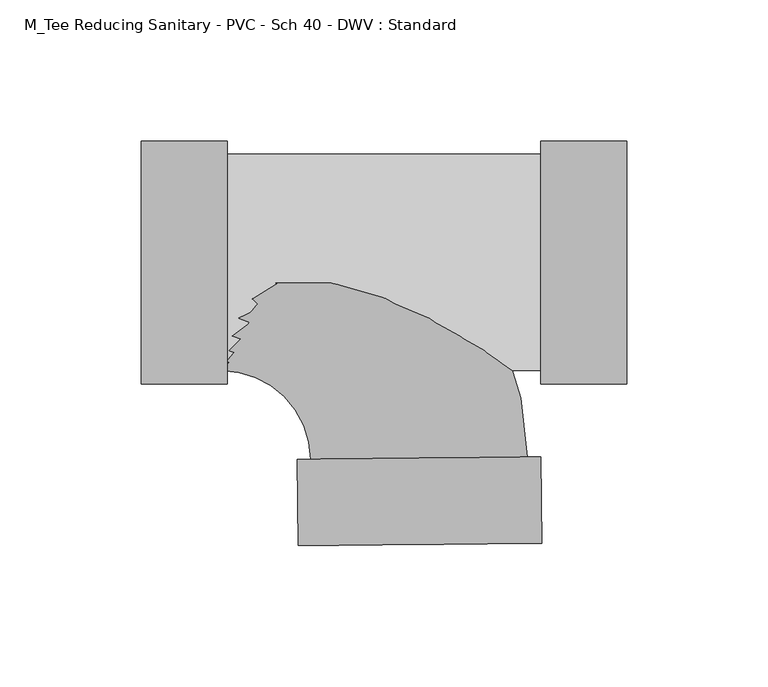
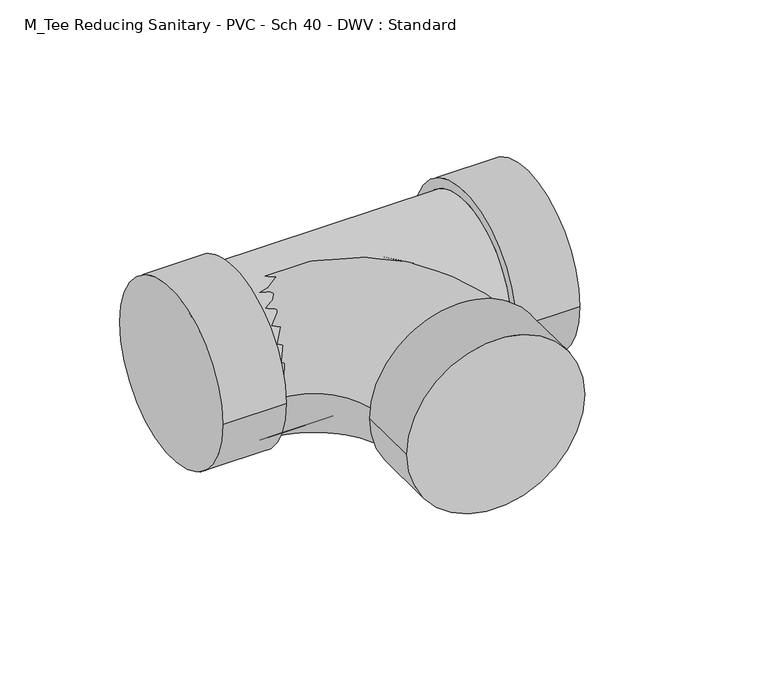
"""IFC4 building model written with IfcOpenShell, lengths in millimetres: pipe fitting geometry, M_Tee Reducing Sanitary - PVC - Sch 40 - DWV : Standard."""

from ifc_helpers import new_model, si_unit, point, frame, origin, place, context, project, spatial, circle_curve, ellipse_curve, trimmed, source, transform, mapped, element, save
from ifc_brep_helpers import plane_surface, cylinder_surface, revolved_surface, advanced_brep


def m_tee_reducing_sanitary_pvc_sch_40_dwv_standard_b574f8c1(model_context):
    return source(origin(), model_context, "Body", "AdvancedBrep", [
        advanced_brep(
        [(43.778897, -43.0871094, 0.0), (43.778897, 43.0871094, 0.0), (43.778897, -38.3640625, 0.0), (43.778897, 38.3640625, 0.0), (74.3492095, -43.0871094, 0.0), (74.3492095, 43.0871094, 0.0), (-67.2428062, 38.3640625, 0.0), (-67.2428062, -38.3640625, 0.0), (-97.8131188, -43.0871094, 0.0), (-97.8131187, 43.0871094, 0.0), (-67.2428063, -43.0871094, 0.0), (-67.2428062, 43.0871094, 0.0)],
        [
            (0, 1, circle_curve(frame((43.778897, 0.0, 0.0), z_axis=(-1.0, 0.0, 0.0), x_axis=(0.0, 1.0, 0.0)), 43.0871094)),
            (1, 0, circle_curve(frame((43.778897, 0.0, 0.0), z_axis=(-1.0, 0.0, 0.0), x_axis=(0.0, 1.0, 0.0)), 43.0871094)),
            (2, 3, circle_curve(frame((43.778897, 0.0, 0.0), z_axis=(1.0, 0.0, 0.0), x_axis=(0.0, 0.0, -1.0)), 38.3640625)),
            (3, 2, circle_curve(frame((43.778897, 0.0, 0.0), z_axis=(1.0, 0.0, 0.0), x_axis=(0.0, 0.0, 1.0)), 38.3640625)),
            (4, 5, circle_curve(frame((74.3492095, 0.0, 0.0), z_axis=(1.0, 0.0, 0.0), x_axis=(0.0, 1.0, 0.0)), 43.0871094)),
            (5, 4, circle_curve(frame((74.3492095, 0.0, 0.0), z_axis=(1.0, 0.0, 0.0), x_axis=(0.0, 1.0, 0.0)), 43.0871094)),
            (0, 4),
            (5, 1),
            (6, 3),
            (2, 7),
            (7, 6, circle_curve(frame((-67.2428063, 0.0, 0.0), z_axis=(1.0, 0.0, 0.0), x_axis=(0.0, 0.0, -1.0)), 38.3640625)),
            (6, 7, circle_curve(frame((-67.2428062, 0.0, 0.0), z_axis=(1.0, 0.0, 0.0), x_axis=(0.0, 0.0, 1.0)), 38.3640625)),
            (8, 9, circle_curve(frame((-97.8131187, 0.0, 0.0), z_axis=(-1.0, 0.0, 0.0), x_axis=(0.0, 1.0, 0.0)), 43.0871094)),
            (9, 8, circle_curve(frame((-97.8131187, 0.0, 0.0), z_axis=(-1.0, 0.0, 0.0), x_axis=(0.0, 1.0, 0.0)), 43.0871094)),
            (10, 11, circle_curve(frame((-67.2428062, 0.0, 0.0), z_axis=(1.0, 0.0, 0.0), x_axis=(0.0, 1.0, 0.0)), 43.0871094)),
            (11, 10, circle_curve(frame((-67.2428062, 0.0, 0.0), z_axis=(1.0, 0.0, 0.0), x_axis=(0.0, 1.0, 0.0)), 43.0871094)),
            (8, 10),
            (11, 9),
        ],
        [
            plane_surface(frame((43.778897, 0.0, 0.0), z_axis=(-1.0, 0.0, 0.0), x_axis=(0.0, 0.0, 1.0))),
            plane_surface(frame((74.3492095, 0.0, 0.0), z_axis=(1.0, 0.0, 0.0), x_axis=(0.0, 0.0, 1.0))),
            cylinder_surface(frame((43.778897, 0.0, 0.0), z_axis=(-1.0, 0.0, 0.0), x_axis=(0.0, 1.0, 0.0)), 43.0871094),
            cylinder_surface(frame((-67.2428062, 0.0, 0.0), z_axis=(1.0, 0.0, 0.0), x_axis=(0.0, 0.0, -1.0)), 38.3640625),
            cylinder_surface(frame((-67.2428062, 0.0, 0.0), z_axis=(1.0, 0.0, 0.0), x_axis=(0.0, 0.0, 1.0)), 38.3640625),
            plane_surface(frame((-97.8131187, 0.0, 0.0), z_axis=(-1.0, 0.0, 0.0), x_axis=(0.0, 0.0, 1.0))),
            plane_surface(frame((-67.2428062, 0.0, 0.0), z_axis=(1.0, 0.0, 0.0), x_axis=(0.0, 0.0, 1.0))),
            cylinder_surface(frame((-97.8131187, 0.0, 0.0), z_axis=(-1.0, 0.0, 0.0), x_axis=(0.0, 1.0, 0.0)), 43.0871094),
        ],
        [
            (0, [[1, 2], [3, 4]]),
            (1, [[5, 6]]),
            (2, [[-1, 7, -6, 8]]),
            (2, [[-2, -8, -5, -7]]),
            (3, [[9, -3, 10, 11]]),
            (4, [[-9, 12, -10, -4]]),
            (5, [[13, 14]]),
            (6, [[15, 16], [-11, -12]]),
            (7, [[-13, 17, -16, 18]]),
            (7, [[-14, -18, -15, -17]]),
        ],
    ),
        advanced_brep(
        [(-42.3910133, -69.8250362, 0.0), (43.778897, -68.9633371, 0.0), (39.0560863, -69.0105652, 0.0), (-37.6682026, -69.7778081, 0.0), (-42.0853255, -100.3938203, 0.0), (44.0845849, -99.5321212, 0.0), (-69.3976562, -38.3640625, 0.0), (-69.3976562, 38.3640625, 0.0)],
        [
            (0, 1, circle_curve(frame((0.6939419, -69.3941866, 0.0), z_axis=(-0.009999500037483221, 0.9999500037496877, 0.0), x_axis=(0.9999500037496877, 0.009999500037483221, 0.0)), 43.0871094)),
            (1, 0, circle_curve(frame((0.6939419, -69.3941866, 0.0), z_axis=(-0.009999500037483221, 0.9999500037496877, 0.0), x_axis=(0.9999500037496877, 0.009999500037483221, 0.0)), 43.0871094)),
            (2, 3, circle_curve(frame((0.6939419, -69.3941866, 0.0), z_axis=(0.009999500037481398, -0.9999500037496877, 0.0), x_axis=(0.9999500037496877, 0.009999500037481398, 0.0)), 38.3640625)),
            (3, 2, circle_curve(frame((0.6939419, -69.3941866, 0.0), z_axis=(0.009999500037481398, -0.9999500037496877, 0.0), x_axis=(0.9999500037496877, 0.009999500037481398, 0.0)), 38.3640625)),
            (4, 5, circle_curve(frame((0.9996297, -99.9629707, 0.0), z_axis=(0.009999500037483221, -0.9999500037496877, 0.0), x_axis=(0.9999500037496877, 0.009999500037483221, 0.0)), 43.0871094)),
            (5, 4, circle_curve(frame((0.9996297, -99.9629707, 0.0), z_axis=(0.009999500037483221, -0.9999500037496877, 0.0), x_axis=(0.9999500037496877, 0.009999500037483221, 0.0)), 43.0871094)),
            (0, 4),
            (5, 1),
            (6, 7, circle_curve(frame((-69.3976562, 0.0, 0.0), z_axis=(-1.0, 0.0, 0.0), x_axis=(0.0, 1.0, 0.0)), 38.3640625)),
            (7, 6, circle_curve(frame((-69.3976562, 0.0, 0.0), z_axis=(-1.0, 0.0, 0.0), x_axis=(0.0, 1.0, 0.0)), 38.3640625)),
            (6, 3, circle_curve(frame((-69.3976562, -70.0951026, 0.0), z_axis=(0.0, 0.0, -1.0), x_axis=(0.0, 1.0, 0.0)), 31.7310401)),
            (2, 7, circle_curve(frame((-69.3976562, -70.0951026, 0.0), z_axis=(0.0, 0.0, 1.0), x_axis=(0.0, 1.0, 0.0)), 108.4591651)),
        ],
        [
            plane_surface(frame((0.6939419, -69.3941866, 0.0), z_axis=(-0.009999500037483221, 0.9999500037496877, 0.0), x_axis=(0.0, 0.0, 1.0))),
            plane_surface(frame((0.9996297, -99.9629707, 0.0), z_axis=(0.009999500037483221, -0.9999500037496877, 0.0), x_axis=(0.0, 0.0, 1.0))),
            cylinder_surface(frame((0.6939419, -69.3941866, 0.0), z_axis=(-0.009999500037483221, 0.9999500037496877, 0.0), x_axis=(0.9999500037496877, 0.009999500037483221, 0.0)), 43.0871094),
            plane_surface(frame((-69.3976562, 0.0, 0.0), z_axis=(-1.0, 0.0, 0.0), x_axis=(0.0, 0.0, 1.0))),
            revolved_surface(trimmed(ellipse_curve(frame((-69.3976562, 0.0, 0.0), z_axis=(-1.0, 0.0, 0.0), x_axis=(0.0, 1.0, 0.0)), 38.3640625, 38.3640625), [point((-69.3976562, -38.3640625, 0.0))], [point((-69.3976562, 38.3640625, 0.0))], True, "CARTESIAN"), (-69.3976562, -70.0951026, 0.0), (0.0, 0.0, -1.0)),
            revolved_surface(trimmed(ellipse_curve(frame((-69.3976562, 0.0, 0.0), z_axis=(-1.0, 0.0, 0.0), x_axis=(0.0, 1.0, 0.0)), 38.3640625, 38.3640625), [point((-69.3976562, 38.3640625, 0.0))], [point((-69.3976562, -38.3640625, 0.0))], True, "CARTESIAN"), (-69.3976562, -70.0951026, 0.0), (0.0, 0.0, -1.0)),
        ],
        [
            (0, [[1, 2], [3, 4]]),
            (1, [[5, 6]]),
            (2, [[-1, 7, -6, 8]]),
            (2, [[-2, -8, -5, -7]]),
            (3, [[9, 10]]),
            (4, [[-9, 11, -3, 12]]),
            (5, [[-10, -12, -4, -11]]),
        ],
    ),
    ])


if __name__ == "__main__":
    model = new_model("IFC4")
    model_context = context("Model", 3, world=origin())
    ifc_project = project(units=[si_unit("LENGTHUNIT", "METRE", prefix="MILLI")], contexts=[model_context])
    site = spatial("IfcSite", under=ifc_project)
    building = spatial("IfcBuilding", under=site)
    placement = place(None, origin())
    m_tee_reducing_sanitary_pvc_sch_40_dwv_standard_shape = m_tee_reducing_sanitary_pvc_sch_40_dwv_standard_b574f8c1(model_context)
    element("IfcPipeFitting", 1, ObjectType="M_Tee Reducing Sanitary - PVC - Sch 40 - DWV : Standard", at=placement, inside=building, context=model_context, shape_type="MappedRepresentation", body=[
        mapped(m_tee_reducing_sanitary_pvc_sch_40_dwv_standard_shape, transform((0.0, 0.0, 0.0), x_axis=(1.0, 0.0, 0.0), y_axis=(0.0, 1.0, 0.0), z_axis=(0.0, 0.0, 1.0))),
    ])
    save(model, "model.ifc")
